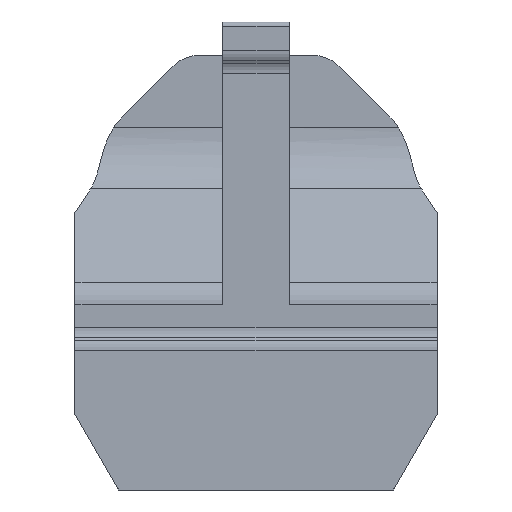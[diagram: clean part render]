
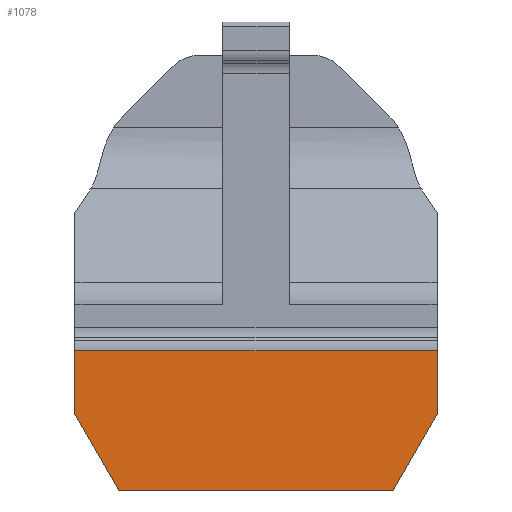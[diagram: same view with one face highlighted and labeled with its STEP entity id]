
A CAD part, front view. The second image highlights one B-rep face of the part: STEP entity #1078.
In plain terms, the highlighted planar face has unit normal (0, -1, 0).
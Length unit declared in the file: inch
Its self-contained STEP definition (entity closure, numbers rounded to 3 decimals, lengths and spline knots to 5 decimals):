
#19 = ORIENTED_EDGE ( 'NONE', *, *, #1129, .T. ) ;
#23 = CARTESIAN_POINT ( 'NONE',  ( -4.65001, -0.75, -5.0929 ) ) ;
#25 = LINE ( 'NONE', #823, #887 ) ;
#28 = CARTESIAN_POINT ( 'NONE',  ( -5.75001, -0.75, -4.61166 ) ) ;
#91 = VECTOR ( 'NONE', #1462, 39.37008 ) ;
#99 = DIRECTION ( 'NONE',  ( 0.498, 0., 0.867 ) ) ;
#123 = EDGE_CURVE ( 'NONE', #642, #294, #604, .T. ) ;
#141 = EDGE_CURVE ( 'NONE', #840, #294, #843, .T. ) ;
#145 = DIRECTION ( 'NONE',  ( 0.498, 0., -0.867 ) ) ;
#170 = CARTESIAN_POINT ( 'NONE',  ( -5.75001, -0.75, -4.83138 ) ) ;
#231 = ORIENTED_EDGE ( 'NONE', *, *, #925, .T. ) ;
#243 = FACE_OUTER_BOUND ( 'NONE', #470, .T. ) ;
#268 = VECTOR ( 'NONE', #99, 39.37008 ) ;
#294 = VERTEX_POINT ( 'NONE', #424 ) ;
#326 = AXIS2_PLACEMENT_3D ( 'NONE', #914, #1391, #797 ) ;
#368 = DIRECTION ( 'NONE',  ( 0., 0., 1. ) ) ;
#414 = CARTESIAN_POINT ( 'NONE',  ( -4.50001, -0.75, -4.61166 ) ) ;
#424 = CARTESIAN_POINT ( 'NONE',  ( -5.75001, -0.75, -4.61166 ) ) ;
#470 = EDGE_LOOP ( 'NONE', ( #231, #940, #771, #19, #539, #955 ) ) ;
#539 = ORIENTED_EDGE ( 'NONE', *, *, #1040, .T. ) ;
#604 = LINE ( 'NONE', #28, #952 ) ;
#632 = CARTESIAN_POINT ( 'NONE',  ( -5.75001, -0.75, -5.0929 ) ) ;
#642 = VERTEX_POINT ( 'NONE', #414 ) ;
#651 = LINE ( 'NONE', #632, #91 ) ;
#660 = VECTOR ( 'NONE', #145, 39.37008 ) ;
#676 = LINE ( 'NONE', #1353, #660 ) ;
#714 = PLANE ( 'NONE',  #326 ) ;
#742 = CARTESIAN_POINT ( 'NONE',  ( -5.75001, -0.75, -5.0929 ) ) ;
#771 = ORIENTED_EDGE ( 'NONE', *, *, #141, .F. ) ;
#797 = DIRECTION ( 'NONE',  ( 0., 0., 1. ) ) ;
#823 = CARTESIAN_POINT ( 'NONE',  ( -4.50001, -0.75, -5.0929 ) ) ;
#840 = VERTEX_POINT ( 'NONE', #170 ) ;
#843 = LINE ( 'NONE', #742, #1304 ) ;
#887 = VECTOR ( 'NONE', #1179, 39.37008 ) ;
#903 = VERTEX_POINT ( 'NONE', #945 ) ;
#914 = CARTESIAN_POINT ( 'NONE',  ( -5.75001, -0.75, -5.0929 ) ) ;
#925 = EDGE_CURVE ( 'NONE', #903, #642, #25, .T. ) ;
#938 = VERTEX_POINT ( 'NONE', #1172 ) ;
#940 = ORIENTED_EDGE ( 'NONE', *, *, #123, .T. ) ;
#945 = CARTESIAN_POINT ( 'NONE',  ( -4.50001, -0.75, -4.83138 ) ) ;
#952 = VECTOR ( 'NONE', #1066, 39.37008 ) ;
#955 = ORIENTED_EDGE ( 'NONE', *, *, #1414, .T. ) ;
#1040 = EDGE_CURVE ( 'NONE', #938, #1141, #651, .T. ) ;
#1066 = DIRECTION ( 'NONE',  ( -1., 0., 0. ) ) ;
#1078 = ADVANCED_FACE ( 'NONE', ( #243 ), #714, .F. ) ;
#1129 = EDGE_CURVE ( 'NONE', #840, #938, #676, .T. ) ;
#1132 = LINE ( 'NONE', #1472, #268 ) ;
#1141 = VERTEX_POINT ( 'NONE', #23 ) ;
#1172 = CARTESIAN_POINT ( 'NONE',  ( -5.60001, -0.75, -5.0929 ) ) ;
#1179 = DIRECTION ( 'NONE',  ( 0., 0., 1. ) ) ;
#1304 = VECTOR ( 'NONE', #368, 39.37008 ) ;
#1353 = CARTESIAN_POINT ( 'NONE',  ( -7.30126, -0.75, -2.12685 ) ) ;
#1391 = DIRECTION ( 'NONE',  ( 0., 1., 0. ) ) ;
#1414 = EDGE_CURVE ( 'NONE', #1141, #903, #1132, .T. ) ;
#1462 = DIRECTION ( 'NONE',  ( 1., 0., 0. ) ) ;
#1472 = CARTESIAN_POINT ( 'NONE',  ( -4.65001, -0.75, -5.0929 ) ) ;
